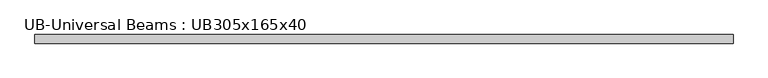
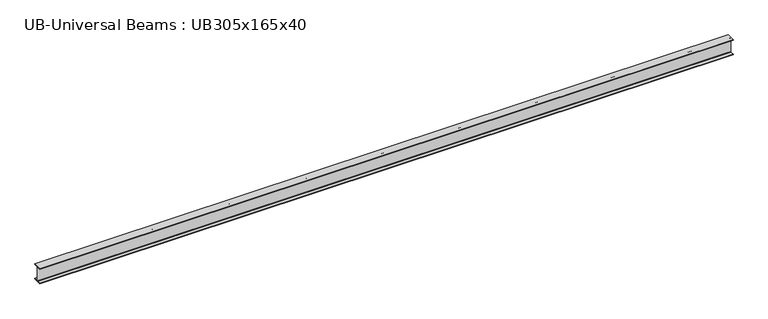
"""IFC4 building model written with IfcOpenShell, lengths in millimetres: beam geometry, UB-Universal Beams : UB305x165x40."""

from ifc_helpers import new_model, si_unit, point, frame, frame_2d, origin, place, context, project, spatial, polyline, circle_curve, trimmed, segment, composite_curve, outline, extrude, source, transform, mapped, element, save


def ub_universal_beams_ub305x165x40_46529011(model_context):
    return source(origin(), model_context, "Body", "SweptSolid", [
        extrude(outline(composite_curve([segment(polyline([(82.5, -141.5), (82.5, -151.7), (-82.5, -151.7), (-82.5, -141.5), (-11.9, -141.5)]), True, "CONTINUOUS"), segment(trimmed(circle_curve(frame_2d((-11.9, -132.6)), 8.9), [point((-11.9, -141.5))], [point((-3.0, -132.6))], True, "CARTESIAN"), True, "CONTINUOUS"), segment(polyline([(-3.0, -132.6), (-3.0, 132.6)]), True, "CONTINUOUS"), segment(trimmed(circle_curve(frame_2d((-11.9, 132.6)), 8.9), [point((-3.0, 132.6))], [point((-11.9, 141.5))], True, "CARTESIAN"), True, "CONTINUOUS"), segment(polyline([(-11.9, 141.5), (-82.5, 141.5), (-82.5, 151.7), (82.5, 151.7), (82.5, 141.5), (11.9, 141.5)]), True, "CONTINUOUS"), segment(trimmed(circle_curve(frame_2d((11.9, 132.6)), 8.9), [point((11.9, 141.5))], [point((3.0, 132.6))], True, "CARTESIAN"), True, "CONTINUOUS"), segment(polyline([(3.0, 132.6), (3.0, -132.6)]), True, "CONTINUOUS"), segment(trimmed(circle_curve(frame_2d((11.9, -132.6)), 8.9), [point((3.0, -132.6))], [point((11.9, -141.5))], True, "CARTESIAN"), True, "CONTINUOUS"), segment(polyline([(11.9, -141.5), (82.5, -141.5)]), True, "CONTINUOUS")], self_intersect=False)), frame((-6751.1, 0.0, 0.0), z_axis=(1.0, 0.0, 0.0), x_axis=(0.0, 1.0, 0.0)), (0.0, 0.0, 1.0), 13277.6),
    ])


if __name__ == "__main__":
    model = new_model("IFC4")
    model_context = context("Model", 3, world=origin())
    ifc_project = project(units=[si_unit("LENGTHUNIT", "METRE", prefix="MILLI")], contexts=[model_context])
    site = spatial("IfcSite", under=ifc_project)
    building = spatial("IfcBuilding", under=site)
    placement = place(None, origin())
    ub_universal_beams_ub305x165x40_shape = ub_universal_beams_ub305x165x40_46529011(model_context)
    element("IfcBeam", 1, ObjectType="UB-Universal Beams : UB305x165x40", at=placement, inside=building, context=model_context, shape_type="MappedRepresentation", body=[
        mapped(ub_universal_beams_ub305x165x40_shape, transform((0.0, 0.0, 0.0), x_axis=(1.0, 0.0, 0.0), y_axis=(0.0, 1.0, 0.0), z_axis=(0.0, 0.0, 1.0))),
    ])
    save(model, "model.ifc")
